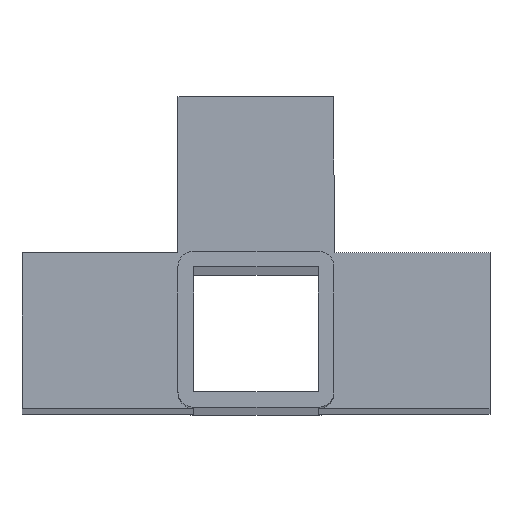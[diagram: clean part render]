
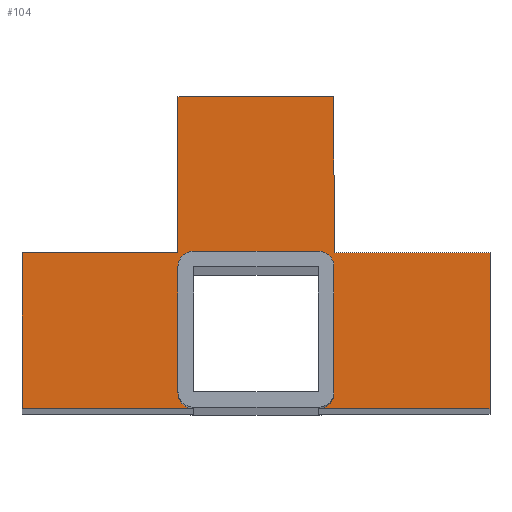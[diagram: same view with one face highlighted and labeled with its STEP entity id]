
A CAD part, top view. The second image highlights one B-rep face of the part: STEP entity #104.
In plain terms, the highlighted planar face has unit normal (0, 0, 1).
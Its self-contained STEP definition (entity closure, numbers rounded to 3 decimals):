
#16 = CARTESIAN_POINT ( 'NONE',  ( 15., 15., 300. ) ) ;
#19 = CARTESIAN_POINT ( 'NONE',  ( 45., 15., 300. ) ) ;
#21 = EDGE_CURVE ( 'NONE', #26, #1026, #943, .T. ) ;
#26 = VERTEX_POINT ( 'NONE', #1117 ) ;
#38 = CARTESIAN_POINT ( 'NONE',  ( 15., 45., 300. ) ) ;
#41 = LINE ( 'NONE', #1037, #82 ) ;
#51 = VECTOR ( 'NONE', #1365, 1000. ) ;
#59 = DIRECTION ( 'NONE',  ( 0., 0., -1. ) ) ;
#60 = CARTESIAN_POINT ( 'NONE',  ( 0., 0., 300. ) ) ;
#67 = EDGE_CURVE ( 'NONE', #638, #1349, #41, .T. ) ;
#68 = LINE ( 'NONE', #1309, #1354 ) ;
#77 = ORIENTED_EDGE ( 'NONE', *, *, #1331, .F. ) ;
#82 = VECTOR ( 'NONE', #160, 1000. ) ;
#92 = ORIENTED_EDGE ( 'NONE', *, *, #127, .F. ) ;
#104 = ADVANCED_FACE ( 'NONE', ( #245 ), #1437, .T. ) ;
#127 = EDGE_CURVE ( 'NONE', #650, #426, #1565, .T. ) ;
#150 = CARTESIAN_POINT ( 'NONE',  ( 15., 0., 300. ) ) ;
#160 = DIRECTION ( 'NONE',  ( 1., 0., 0. ) ) ;
#166 = CARTESIAN_POINT ( 'NONE',  ( 0., 15., 300. ) ) ;
#167 = CARTESIAN_POINT ( 'NONE',  ( -12., 12., 300. ) ) ;
#170 = DIRECTION ( 'NONE',  ( 0., 0., 1. ) ) ;
#178 = VECTOR ( 'NONE', #1027, 1000. ) ;
#184 = CARTESIAN_POINT ( 'NONE',  ( 12., -12., 300. ) ) ;
#193 = ORIENTED_EDGE ( 'NONE', *, *, #951, .F. ) ;
#215 = LINE ( 'NONE', #481, #51 ) ;
#229 = CIRCLE ( 'NONE', #1098, 3. ) ;
#231 = CARTESIAN_POINT ( 'NONE',  ( -15., -12., 300. ) ) ;
#237 = DIRECTION ( 'NONE',  ( 1., 0., 0. ) ) ;
#245 = FACE_OUTER_BOUND ( 'NONE', #578, .T. ) ;
#260 = ORIENTED_EDGE ( 'NONE', *, *, #1091, .F. ) ;
#302 = CARTESIAN_POINT ( 'NONE',  ( 0., -15., 300. ) ) ;
#307 = DIRECTION ( 'NONE',  ( 1., 0., 0. ) ) ;
#312 = DIRECTION ( 'NONE',  ( 0., -1., 0. ) ) ;
#317 = AXIS2_PLACEMENT_3D ( 'NONE', #184, #322, #1307 ) ;
#322 = DIRECTION ( 'NONE',  ( 0., 0., 1. ) ) ;
#396 = ORIENTED_EDGE ( 'NONE', *, *, #522, .F. ) ;
#404 = CARTESIAN_POINT ( 'NONE',  ( 12., 15., 300. ) ) ;
#421 = DIRECTION ( 'NONE',  ( 0., 1., 0. ) ) ;
#426 = VERTEX_POINT ( 'NONE', #677 ) ;
#446 = ORIENTED_EDGE ( 'NONE', *, *, #67, .F. ) ;
#449 = VERTEX_POINT ( 'NONE', #932 ) ;
#453 = LINE ( 'NONE', #1434, #891 ) ;
#461 = VERTEX_POINT ( 'NONE', #38 ) ;
#477 = ORIENTED_EDGE ( 'NONE', *, *, #576, .T. ) ;
#481 = CARTESIAN_POINT ( 'NONE',  ( 0., 15., 300. ) ) ;
#522 = EDGE_CURVE ( 'NONE', #1048, #847, #1480, .T. ) ;
#532 = EDGE_CURVE ( 'NONE', #1306, #1244, #1115, .T. ) ;
#545 = CARTESIAN_POINT ( 'NONE',  ( 45., -15., 300. ) ) ;
#557 = LINE ( 'NONE', #1494, #1503 ) ;
#560 = EDGE_CURVE ( 'NONE', #1349, #820, #453, .T. ) ;
#576 = EDGE_CURVE ( 'NONE', #980, #1079, #229, .T. ) ;
#578 = EDGE_LOOP ( 'NONE', ( #1003, #1077, #477, #955, #1335, #92, #193, #1347, #1195, #711, #1345, #446, #1452, #77, #396, #260 ) ) ;
#598 = EDGE_CURVE ( 'NONE', #426, #449, #890, .T. ) ;
#602 = AXIS2_PLACEMENT_3D ( 'NONE', #1056, #170, #1045 ) ;
#614 = CARTESIAN_POINT ( 'NONE',  ( -15., 12., 300. ) ) ;
#617 = EDGE_CURVE ( 'NONE', #1079, #449, #1204, .T. ) ;
#638 = VERTEX_POINT ( 'NONE', #1551 ) ;
#643 = CARTESIAN_POINT ( 'NONE',  ( 0., -15., 300. ) ) ;
#650 = VERTEX_POINT ( 'NONE', #545 ) ;
#666 = DIRECTION ( 'NONE',  ( 1., 0., 0. ) ) ;
#667 = CARTESIAN_POINT ( 'NONE',  ( -15., 15., 300. ) ) ;
#677 = CARTESIAN_POINT ( 'NONE',  ( 12., -15., 300. ) ) ;
#711 = ORIENTED_EDGE ( 'NONE', *, *, #1060, .F. ) ;
#714 = LINE ( 'NONE', #643, #1215 ) ;
#755 = AXIS2_PLACEMENT_3D ( 'NONE', #60, #837, #1297 ) ;
#804 = DIRECTION ( 'NONE',  ( 1., 0., 0. ) ) ;
#818 = CARTESIAN_POINT ( 'NONE',  ( -45., -15., 300. ) ) ;
#820 = VERTEX_POINT ( 'NONE', #950 ) ;
#826 = VECTOR ( 'NONE', #312, 1000. ) ;
#837 = DIRECTION ( 'NONE',  ( 0., 0., 1. ) ) ;
#847 = VERTEX_POINT ( 'NONE', #1211 ) ;
#890 = CIRCLE ( 'NONE', #317, 3. ) ;
#891 = VECTOR ( 'NONE', #1179, 1000. ) ;
#917 = DIRECTION ( 'NONE',  ( 0., -1., 0. ) ) ;
#929 = VECTOR ( 'NONE', #237, 1000. ) ;
#932 = CARTESIAN_POINT ( 'NONE',  ( 15., -12., 300. ) ) ;
#943 = CIRCLE ( 'NONE', #1573, 3. ) ;
#950 = CARTESIAN_POINT ( 'NONE',  ( -15., 45., 300. ) ) ;
#951 = EDGE_CURVE ( 'NONE', #1244, #650, #1374, .T. ) ;
#955 = ORIENTED_EDGE ( 'NONE', *, *, #617, .T. ) ;
#964 = LINE ( 'NONE', #992, #929 ) ;
#980 = VERTEX_POINT ( 'NONE', #404 ) ;
#986 = CARTESIAN_POINT ( 'NONE',  ( 15., 12., 300. ) ) ;
#992 = CARTESIAN_POINT ( 'NONE',  ( 0., 45., 300. ) ) ;
#1003 = ORIENTED_EDGE ( 'NONE', *, *, #21, .F. ) ;
#1022 = DIRECTION ( 'NONE',  ( 0., -1., 0. ) ) ;
#1026 = VERTEX_POINT ( 'NONE', #614 ) ;
#1027 = DIRECTION ( 'NONE',  ( -1., 0., 0. ) ) ;
#1035 = CARTESIAN_POINT ( 'NONE',  ( 45., 0., 300. ) ) ;
#1037 = CARTESIAN_POINT ( 'NONE',  ( 0., 15., 300. ) ) ;
#1043 = LINE ( 'NONE', #150, #1486 ) ;
#1045 = DIRECTION ( 'NONE',  ( 1., 0., 0. ) ) ;
#1048 = VERTEX_POINT ( 'NONE', #231 ) ;
#1056 = CARTESIAN_POINT ( 'NONE',  ( -12., -12., 300. ) ) ;
#1060 = EDGE_CURVE ( 'NONE', #820, #461, #964, .T. ) ;
#1067 = CARTESIAN_POINT ( 'NONE',  ( 15., 0., 300. ) ) ;
#1077 = ORIENTED_EDGE ( 'NONE', *, *, #1121, .T. ) ;
#1079 = VERTEX_POINT ( 'NONE', #986 ) ;
#1091 = EDGE_CURVE ( 'NONE', #1026, #1048, #557, .T. ) ;
#1098 = AXIS2_PLACEMENT_3D ( 'NONE', #1544, #59, #307 ) ;
#1115 = LINE ( 'NONE', #166, #1151 ) ;
#1117 = CARTESIAN_POINT ( 'NONE',  ( -12., 15., 300. ) ) ;
#1118 = VECTOR ( 'NONE', #917, 1000. ) ;
#1121 = EDGE_CURVE ( 'NONE', #26, #980, #215, .T. ) ;
#1151 = VECTOR ( 'NONE', #666, 1000. ) ;
#1154 = EDGE_CURVE ( 'NONE', #461, #1306, #1043, .T. ) ;
#1179 = DIRECTION ( 'NONE',  ( 0., 1., 0. ) ) ;
#1195 = ORIENTED_EDGE ( 'NONE', *, *, #1154, .F. ) ;
#1204 = LINE ( 'NONE', #1067, #826 ) ;
#1211 = CARTESIAN_POINT ( 'NONE',  ( -12., -15., 300. ) ) ;
#1215 = VECTOR ( 'NONE', #1419, 1000. ) ;
#1244 = VERTEX_POINT ( 'NONE', #19 ) ;
#1297 = DIRECTION ( 'NONE',  ( 1., 0., 0. ) ) ;
#1306 = VERTEX_POINT ( 'NONE', #16 ) ;
#1307 = DIRECTION ( 'NONE',  ( 1., 0., 0. ) ) ;
#1309 = CARTESIAN_POINT ( 'NONE',  ( -45., 0., 300. ) ) ;
#1331 = EDGE_CURVE ( 'NONE', #847, #1509, #714, .T. ) ;
#1335 = ORIENTED_EDGE ( 'NONE', *, *, #598, .F. ) ;
#1345 = ORIENTED_EDGE ( 'NONE', *, *, #560, .F. ) ;
#1347 = ORIENTED_EDGE ( 'NONE', *, *, #532, .F. ) ;
#1349 = VERTEX_POINT ( 'NONE', #667 ) ;
#1354 = VECTOR ( 'NONE', #421, 1000. ) ;
#1365 = DIRECTION ( 'NONE',  ( 1., 0., 0. ) ) ;
#1374 = LINE ( 'NONE', #1035, #1118 ) ;
#1377 = DIRECTION ( 'NONE',  ( 0., -1., 0. ) ) ;
#1412 = EDGE_CURVE ( 'NONE', #1509, #638, #68, .T. ) ;
#1419 = DIRECTION ( 'NONE',  ( -1., 0., 0. ) ) ;
#1434 = CARTESIAN_POINT ( 'NONE',  ( -15., 0., 300. ) ) ;
#1437 = PLANE ( 'NONE',  #755 ) ;
#1452 = ORIENTED_EDGE ( 'NONE', *, *, #1412, .F. ) ;
#1480 = CIRCLE ( 'NONE', #602, 3. ) ;
#1486 = VECTOR ( 'NONE', #1022, 1000. ) ;
#1494 = CARTESIAN_POINT ( 'NONE',  ( -15., 0., 300. ) ) ;
#1503 = VECTOR ( 'NONE', #1377, 1000. ) ;
#1509 = VERTEX_POINT ( 'NONE', #818 ) ;
#1523 = DIRECTION ( 'NONE',  ( 0., 0., 1. ) ) ;
#1544 = CARTESIAN_POINT ( 'NONE',  ( 12., 12., 300. ) ) ;
#1551 = CARTESIAN_POINT ( 'NONE',  ( -45., 15., 300. ) ) ;
#1565 = LINE ( 'NONE', #302, #178 ) ;
#1573 = AXIS2_PLACEMENT_3D ( 'NONE', #167, #1523, #804 ) ;
